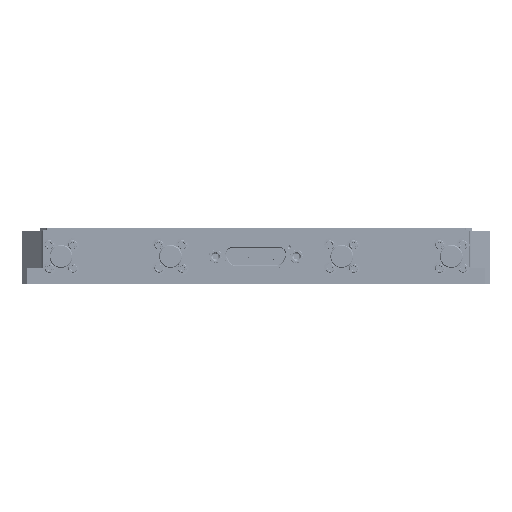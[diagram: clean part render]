
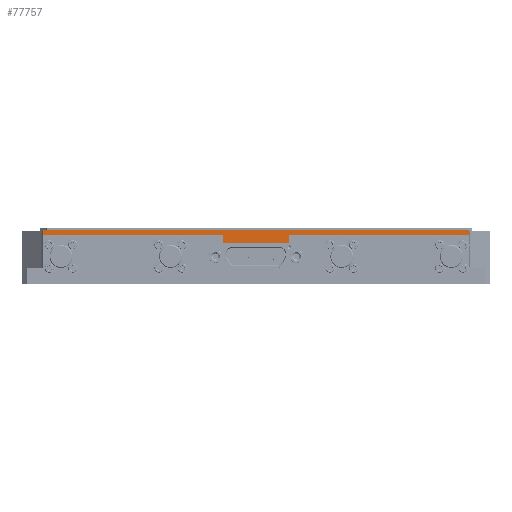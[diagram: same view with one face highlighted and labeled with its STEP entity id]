
A CAD part, top view. The second image highlights one B-rep face of the part: STEP entity #77757.
In plain terms, the highlighted planar face has unit normal (0, 0, 1).
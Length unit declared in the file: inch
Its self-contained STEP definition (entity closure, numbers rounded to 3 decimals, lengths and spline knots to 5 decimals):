
#2794 = VECTOR ( 'NONE', #87694, 39.37008 ) ;
#11067 = EDGE_CURVE ( 'NONE', #54854, #174503, #206174, .T. ) ;
#13510 = VECTOR ( 'NONE', #60429, 39.37008 ) ;
#16032 = LINE ( 'NONE', #197984, #2794 ) ;
#16042 = ORIENTED_EDGE ( 'NONE', *, *, #31454, .T. ) ;
#22390 = EDGE_CURVE ( 'NONE', #220200, #49421, #149267, .T. ) ;
#22826 = CARTESIAN_POINT ( 'NONE',  ( -0.6, 0.05, 1.5 ) ) ;
#24242 = EDGE_CURVE ( 'NONE', #220200, #44974, #103373, .T. ) ;
#24841 = DIRECTION ( 'NONE',  ( -1., 0., 0. ) ) ;
#26845 = CARTESIAN_POINT ( 'NONE',  ( -0.78, 0., 1.5 ) ) ;
#27146 = FACE_OUTER_BOUND ( 'NONE', #69661, .T. ) ;
#28571 = EDGE_CURVE ( 'NONE', #53493, #54854, #106962, .T. ) ;
#31454 = EDGE_CURVE ( 'NONE', #198451, #53493, #34280, .T. ) ;
#32818 = CARTESIAN_POINT ( 'NONE',  ( -0.78, -0.25456, 1.5 ) ) ;
#34280 = LINE ( 'NONE', #154527, #34988 ) ;
#34988 = VECTOR ( 'NONE', #51928, 39.37008 ) ;
#35250 = DIRECTION ( 'NONE',  ( 1., 0., 0. ) ) ;
#40123 = AXIS2_PLACEMENT_3D ( 'NONE', #131826, #185748, #24841 ) ;
#41994 = ORIENTED_EDGE ( 'NONE', *, *, #108604, .F. ) ;
#44974 = VERTEX_POINT ( 'NONE', #61114 ) ;
#49421 = VERTEX_POINT ( 'NONE', #180416 ) ;
#51928 = DIRECTION ( 'NONE',  ( 0., 1., 0. ) ) ;
#53493 = VERTEX_POINT ( 'NONE', #189152 ) ;
#54854 = VERTEX_POINT ( 'NONE', #158565 ) ;
#57525 = VECTOR ( 'NONE', #222737, 39.37008 ) ;
#59061 = ORIENTED_EDGE ( 'NONE', *, *, #22390, .T. ) ;
#60429 = DIRECTION ( 'NONE',  ( 1., 0., 0. ) ) ;
#60739 = VECTOR ( 'NONE', #105674, 39.37008 ) ;
#61114 = CARTESIAN_POINT ( 'NONE',  ( -0.78, 0.05, 1.5 ) ) ;
#61849 = LINE ( 'NONE', #202808, #57525 ) ;
#62178 = ORIENTED_EDGE ( 'NONE', *, *, #24242, .F. ) ;
#67424 = VECTOR ( 'NONE', #77542, 39.37008 ) ;
#69661 = EDGE_LOOP ( 'NONE', ( #159638, #62178, #59061, #41994, #130396, #16042, #140686, #173741 ) ) ;
#77542 = DIRECTION ( 'NONE',  ( 1., 0., 0. ) ) ;
#77757 = ADVANCED_FACE ( 'NONE', ( #27146 ), #201017, .F. ) ;
#87694 = DIRECTION ( 'NONE',  ( 0., 1., 0. ) ) ;
#99409 = DIRECTION ( 'NONE',  ( 0., 1., 0. ) ) ;
#103373 = LINE ( 'NONE', #32818, #60739 ) ;
#105674 = DIRECTION ( 'NONE',  ( 0., 1., 0. ) ) ;
#106962 = LINE ( 'NONE', #196143, #128142 ) ;
#107315 = VECTOR ( 'NONE', #99409, 39.37008 ) ;
#108604 = EDGE_CURVE ( 'NONE', #148881, #49421, #16032, .T. ) ;
#117027 = CARTESIAN_POINT ( 'NONE',  ( 3.78, -0.25456, 1.5 ) ) ;
#123284 = EDGE_CURVE ( 'NONE', #44974, #174503, #182585, .T. ) ;
#128142 = VECTOR ( 'NONE', #35250, 39.37008 ) ;
#130396 = ORIENTED_EDGE ( 'NONE', *, *, #206169, .F. ) ;
#131826 = CARTESIAN_POINT ( 'NONE',  ( -0.6, 0.08, 1.5 ) ) ;
#140686 = ORIENTED_EDGE ( 'NONE', *, *, #28571, .T. ) ;
#148881 = VERTEX_POINT ( 'NONE', #196581 ) ;
#149267 = LINE ( 'NONE', #185599, #67424 ) ;
#150750 = CARTESIAN_POINT ( 'NONE',  ( 1.85, -0.092, 1.5 ) ) ;
#154527 = CARTESIAN_POINT ( 'NONE',  ( 1.85, -0.092, 1.5 ) ) ;
#158565 = CARTESIAN_POINT ( 'NONE',  ( 3.78, 0., 1.5 ) ) ;
#159638 = ORIENTED_EDGE ( 'NONE', *, *, #123284, .F. ) ;
#173741 = ORIENTED_EDGE ( 'NONE', *, *, #11067, .T. ) ;
#174503 = VERTEX_POINT ( 'NONE', #207019 ) ;
#180416 = CARTESIAN_POINT ( 'NONE',  ( 1.15, 0., 1.5 ) ) ;
#182585 = LINE ( 'NONE', #22826, #13510 ) ;
#185599 = CARTESIAN_POINT ( 'NONE',  ( -0.6, 0., 1.5 ) ) ;
#185748 = DIRECTION ( 'NONE',  ( 0., 0., -1. ) ) ;
#189152 = CARTESIAN_POINT ( 'NONE',  ( 1.85, 0., 1.5 ) ) ;
#196143 = CARTESIAN_POINT ( 'NONE',  ( -0.6, 0., 1.5 ) ) ;
#196581 = CARTESIAN_POINT ( 'NONE',  ( 1.15, -0.092, 1.5 ) ) ;
#197984 = CARTESIAN_POINT ( 'NONE',  ( 1.15, -0.092, 1.5 ) ) ;
#198451 = VERTEX_POINT ( 'NONE', #150750 ) ;
#201017 = PLANE ( 'NONE',  #40123 ) ;
#202808 = CARTESIAN_POINT ( 'NONE',  ( 1.85, -0.092, 1.5 ) ) ;
#206169 = EDGE_CURVE ( 'NONE', #198451, #148881, #61849, .T. ) ;
#206174 = LINE ( 'NONE', #117027, #107315 ) ;
#207019 = CARTESIAN_POINT ( 'NONE',  ( 3.78, 0.05, 1.5 ) ) ;
#220200 = VERTEX_POINT ( 'NONE', #26845 ) ;
#222737 = DIRECTION ( 'NONE',  ( -1., 0., 0. ) ) ;
